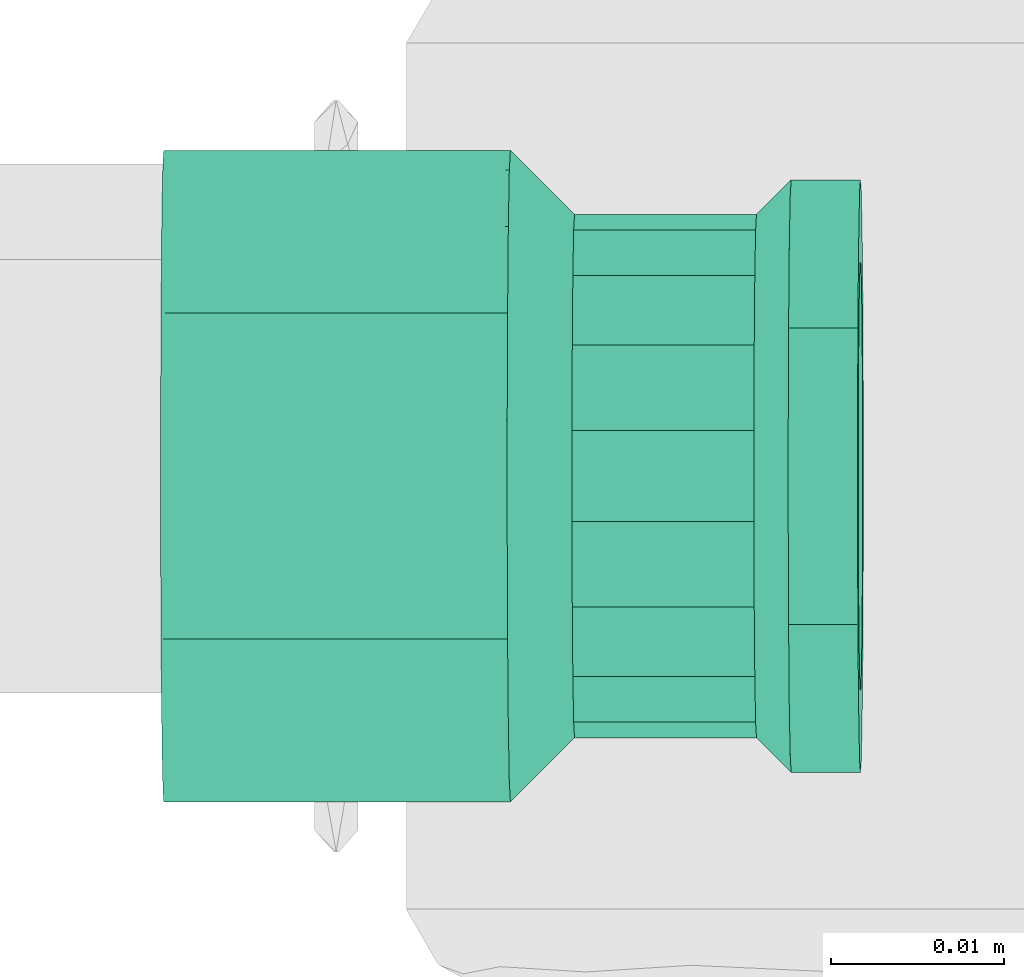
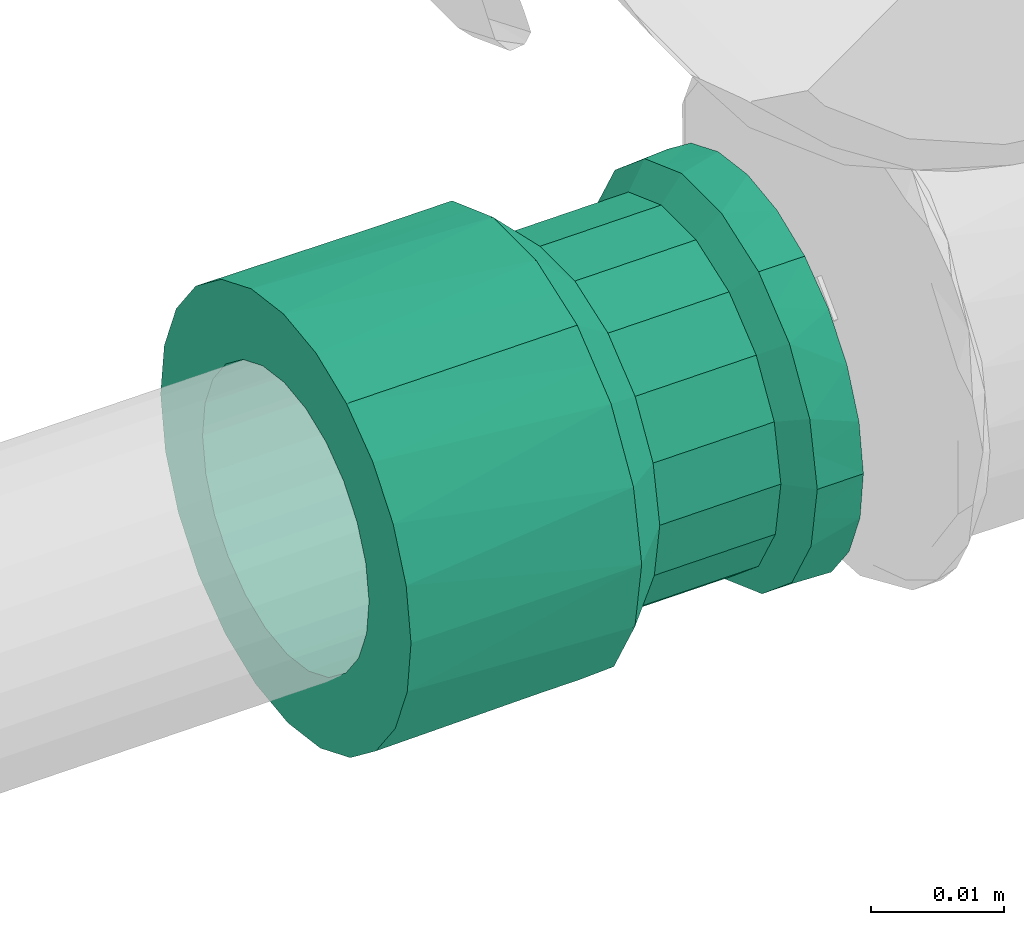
# One storey, part 351 of 589: 1 flow fitting.
"""IFC2X3 building model written with IfcOpenShell, lengths in millimetres."""

from ifc_helpers import new_model, entity, si_unit, converted_unit, derived_unit, direction, frame, origin, place, context, subcontext, project, spatial, faceted_brep, source, transform, mapped, material, type_object, type_shapes, element, save


model = new_model("IFC2X3")

# Units and contexts
model_context = context("Model", 3, precision=0.01, world=origin(), true_north=direction((6.123031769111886e-17, 1.0)))
body_context = subcontext(model_context, "Body", "Model", "MODEL_VIEW")
ifc_project = project(units=[si_unit("LENGTHUNIT", "METRE", prefix="MILLI"), si_unit("AREAUNIT", "SQUARE_METRE"), si_unit("VOLUMEUNIT", "CUBIC_METRE"), converted_unit("PLANEANGLEUNIT", "DEGREE", entity("IfcRatioMeasure", 0.017453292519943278), si_unit("PLANEANGLEUNIT", "RADIAN"), dimensions=[0, 0, 0, 0, 0, 0, 0]), si_unit("MASSUNIT", "GRAM", prefix="KILO"), derived_unit("MASSDENSITYUNIT", [(si_unit("MASSUNIT", "GRAM", prefix="KILO"), 1), (si_unit("LENGTHUNIT", "METRE"), -3)]), derived_unit("IONCONCENTRATIONUNIT", [(si_unit("MASSUNIT", "GRAM", prefix="KILO"), 1), (si_unit("LENGTHUNIT", "METRE"), -3)]), derived_unit("MOMENTOFINERTIAUNIT", [(si_unit("LENGTHUNIT", "METRE"), 4)]), si_unit("TIMEUNIT", "SECOND"), si_unit("FREQUENCYUNIT", "HERTZ"), si_unit("THERMODYNAMICTEMPERATUREUNIT", "DEGREE_CELSIUS"), derived_unit("THERMALTRANSMITTANCEUNIT", [(si_unit("MASSUNIT", "GRAM", prefix="KILO"), 1), (si_unit("THERMODYNAMICTEMPERATUREUNIT", "KELVIN"), -1), (si_unit("TIMEUNIT", "SECOND"), -3)]), derived_unit("THERMALCONDUCTANCEUNIT", [(si_unit("MASSUNIT", "GRAM", prefix="KILO"), 1), (si_unit("THERMODYNAMICTEMPERATUREUNIT", "KELVIN"), -1), (si_unit("TIMEUNIT", "SECOND"), -3), (si_unit("LENGTHUNIT", "METRE"), 1)]), derived_unit("VOLUMETRICFLOWRATEUNIT", [(si_unit("LENGTHUNIT", "METRE"), 3), (si_unit("TIMEUNIT", "SECOND"), -1)]), derived_unit("MASSFLOWRATEUNIT", [(si_unit("MASSUNIT", "GRAM", prefix="KILO"), 1), (si_unit("TIMEUNIT", "SECOND"), -1)]), derived_unit("ROTATIONALFREQUENCYUNIT", [(si_unit("TIMEUNIT", "SECOND"), -1)]), si_unit("ELECTRICCURRENTUNIT", "AMPERE"), si_unit("ELECTRICVOLTAGEUNIT", "VOLT"), si_unit("POWERUNIT", "WATT"), si_unit("FORCEUNIT", "NEWTON", prefix="KILO"), si_unit("ILLUMINANCEUNIT", "LUX"), si_unit("LUMINOUSFLUXUNIT", "LUMEN"), si_unit("LUMINOUSINTENSITYUNIT", "CANDELA"), derived_unit("USERDEFINED", [(si_unit("MASSUNIT", "GRAM", prefix="KILO"), -1), (si_unit("LENGTHUNIT", "METRE"), -2), (si_unit("TIMEUNIT", "SECOND"), 3), (si_unit("LUMINOUSFLUXUNIT", "LUMEN"), 1)]), derived_unit("USERDEFINED", [(si_unit("MASSUNIT", "GRAM", prefix="KILO"), 1), (si_unit("TIMEUNIT", "SECOND"), -3), (si_unit("LENGTHUNIT", "METRE"), 3), (si_unit("ELECTRICCURRENTUNIT", "AMPERE"), -2)]), derived_unit("SOUNDPOWERUNIT", [(si_unit("MASSUNIT", "GRAM", prefix="KILO"), 1), (si_unit("TIMEUNIT", "SECOND"), -3), (si_unit("LENGTHUNIT", "METRE"), 2)]), derived_unit("SOUNDPRESSUREUNIT", [(si_unit("MASSUNIT", "GRAM", prefix="KILO"), 1), (si_unit("LENGTHUNIT", "METRE"), -1), (si_unit("TIMEUNIT", "SECOND"), -2)]), derived_unit("LINEARVELOCITYUNIT", [(si_unit("LENGTHUNIT", "METRE"), 1), (si_unit("TIMEUNIT", "SECOND"), -1)]), si_unit("PRESSUREUNIT", "PASCAL"), derived_unit("USERDEFINED", [(si_unit("MASSUNIT", "GRAM", prefix="KILO"), 1), (si_unit("LENGTHUNIT", "METRE"), -2), (si_unit("TIMEUNIT", "SECOND"), -2)]), derived_unit("LINEARFORCEUNIT", [(si_unit("MASSUNIT", "GRAM", prefix="KILO"), 1), (si_unit("TIMEUNIT", "SECOND"), -2)]), derived_unit("PLANARFORCEUNIT", [(si_unit("MASSUNIT", "GRAM", prefix="KILO"), 1), (si_unit("LENGTHUNIT", "METRE"), -1), (si_unit("TIMEUNIT", "SECOND"), -2)]), derived_unit("SPECIFICHEATCAPACITYUNIT", [(si_unit("THERMODYNAMICTEMPERATUREUNIT", "KELVIN"), -1), (si_unit("LENGTHUNIT", "METRE"), 2), (si_unit("TIMEUNIT", "SECOND"), -2)]), derived_unit("HEATINGVALUEUNIT", [(si_unit("LENGTHUNIT", "METRE"), 2), (si_unit("TIMEUNIT", "SECOND"), -2)]), derived_unit("VAPORPERMEABILITYUNIT", [(si_unit("LENGTHUNIT", "METRE"), -1), (si_unit("TIMEUNIT", "SECOND"), 1)]), derived_unit("DYNAMICVISCOSITYUNIT", [(si_unit("MASSUNIT", "GRAM", prefix="KILO"), 1), (si_unit("TIMEUNIT", "SECOND"), -1), (si_unit("LENGTHUNIT", "METRE"), -1)]), derived_unit("THERMALEXPANSIONCOEFFICIENTUNIT", [(si_unit("THERMODYNAMICTEMPERATUREUNIT", "KELVIN"), -1)]), derived_unit("MODULUSOFELASTICITYUNIT", [(si_unit("MASSUNIT", "GRAM", prefix="KILO"), 1), (si_unit("LENGTHUNIT", "METRE"), -1), (si_unit("TIMEUNIT", "SECOND"), -2)]), derived_unit("ISOTHERMALMOISTURECAPACITYUNIT", [(si_unit("LENGTHUNIT", "METRE"), 3), (si_unit("MASSUNIT", "GRAM", prefix="KILO"), -1)]), derived_unit("MOISTUREDIFFUSIVITYUNIT", [(si_unit("TIMEUNIT", "SECOND"), -1), (si_unit("LENGTHUNIT", "METRE"), 2)])], contexts=[model_context])

# Site, building, storey
site_placement = place(None, origin())
site = spatial("IfcSite", under=ifc_project, at=site_placement, Name="Default", CompositionType="ELEMENT")
building_placement = place(site_placement, origin())
building = spatial("IfcBuilding", under=site, at=building_placement, CompositionType="ELEMENT")
storey_placement = place(building_placement, frame((0.0, 0.0, 100.0)))
storey = spatial("IfcBuildingStorey", under=building, at=storey_placement, Name="TÉRREO", CompositionType="ELEMENT", Elevation=100.0)

# Flow fitting
ifc_material = material(Name="PVC Azul")
pipe_fitting_type = type_object("IfcPipeFittingType", Name="Luva Soldavel com Bucha de Latao - Fortlev - AleBim:Standard", PredefinedType="NOTDEFINED", material=ifc_material)
shared_shape = source(origin(), body_context, "Body", "Brep", [
    faceted_brep([(0.0, -9.400000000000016, -16.28127759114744), (0.0, -13.2936074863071, -13.293607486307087), (0.0, -6.249999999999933, -10.825317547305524), (0.0, -3.235238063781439, -12.074072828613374), (0.0, -4.865798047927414, -18.15940553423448), (0.0, -8.838834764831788, -8.838834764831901), (0.0, -16.281277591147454, -9.399999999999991), (0.0, -10.82531754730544, -6.250000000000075), (0.0, -12.074072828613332, -3.2352380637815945), (0.0, -18.159405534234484, -4.865798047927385), (0.0, -12.5, 0.0), (0.0, -18.8, 0.0), (0.0, -12.074072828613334, 3.2352380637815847), (0.0, -18.159405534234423, 4.8657980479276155), (0.0, -10.825317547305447, 6.250000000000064), (0.0, -16.281277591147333, 9.400000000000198), (0.0, -8.838834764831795, 8.838834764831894), (0.0, -13.293607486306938, 13.29360748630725), (0.0, -6.249999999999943, 10.825317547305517), (0.0, -9.399999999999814, 16.281277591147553), (0.0, -3.23523806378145, 12.07407282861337), (0.0, -4.865798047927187, 18.159405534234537), (0.0, 0.0, 12.5), (0.0, 0.0, 18.8), (0.0, 3.2352380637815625, 12.074072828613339), (0.0, 4.865798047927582, 18.159405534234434), (0.0, 6.2500000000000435, 10.825317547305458), (0.0, 9.400000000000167, 16.28127759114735), (0.0, 8.838834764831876, 8.838834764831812), (0.0, 13.29360748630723, 13.293607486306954), (0.0, 10.825317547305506, 6.249999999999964), (0.0, 16.281277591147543, 9.399999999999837), (0.0, 18.159405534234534, 4.865798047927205), (0.0, 12.074072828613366, 3.2352380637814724), (0.0, 18.8, 0.0), (0.0, 12.5, 0.0), (0.0, 18.15940553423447, -4.865798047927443), (0.0, 12.074072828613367, -3.2352380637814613), (0.0, 16.281277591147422, -9.400000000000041), (0.0, 10.825317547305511, -6.249999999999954), (0.0, 13.293607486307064, -13.293607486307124), (0.0, 8.838834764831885, -8.838834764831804), (0.0, 9.399999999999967, -16.281277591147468), (0.0, 6.250000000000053, -10.825317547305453), (0.0, 4.86579804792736, -18.159405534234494), (0.0, 3.2352380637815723, -12.074072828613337), (0.0, 0.0, -18.8), (0.0, 0.0, -12.5), (20.0, 17.66604204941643, 6.4304710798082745), (20.0, 18.233021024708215, 3.2152355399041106), (20.0, 11.899800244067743, 14.183636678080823), (20.0, 14.400961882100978, 12.08520983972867), (20.0, 16.033501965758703, 9.257840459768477), (20.0, 6.330580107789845, 17.39840655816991), (20.0, 3.2625216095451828, 18.514749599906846), (20.0, 18.8, 0.0), (20.0, 9.398638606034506, 16.282063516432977), (20.0, -17.667654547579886, 6.4260394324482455), (20.0, -9.402722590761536, 16.279705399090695), (20.0, -6.334944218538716, 17.39681801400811), (20.0, -3.267165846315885, 18.513930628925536), (20.0, -14.403992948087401, 12.081597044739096), (20.0, -11.903357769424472, 14.180651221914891), (20.0, -18.8, 0.0), (20.0, -16.03582374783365, 9.253818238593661), (20.0, -0.0023221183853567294, 18.514340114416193), (20.0, -17.66765454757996, -6.426039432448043), (20.0, -11.903357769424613, -14.180651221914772), (20.0, -14.403992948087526, -12.081597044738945), (20.0, -16.035823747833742, -9.253818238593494), (20.0, -6.334944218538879, -17.39681801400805), (20.0, -3.2671658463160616, -18.513930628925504), (20.0, 18.233021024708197, -3.2152355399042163), (20.0, -9.402722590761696, -16.2797053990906), (20.0, 6.330580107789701, -17.398406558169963), (20.0, 3.2625216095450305, -18.514749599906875), (20.0, 9.398638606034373, -16.282063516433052), (20.0, 11.899800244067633, -14.183636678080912), (20.0, 17.66604204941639, -6.43047107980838), (20.0, 16.033501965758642, -9.257840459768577), (20.0, 14.400961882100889, -12.085209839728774), (20.0, -0.0023221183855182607, -18.51434011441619), (23.69999999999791, 14.19050976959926, 5.16134018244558), (23.699999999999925, 15.09999999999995, 0.0), (23.699999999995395, 5.088173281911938, 13.97297617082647), (23.699999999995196, 2.6241598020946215, 14.870231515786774), (23.699999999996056, 9.560675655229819, 11.38977837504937), (23.699999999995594, 7.552186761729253, 13.075720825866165), (23.699999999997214, 12.879837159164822, 7.432588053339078), (23.699999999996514, 11.569164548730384, 9.703835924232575), (23.699999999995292, 0.0018651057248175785, 14.870560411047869), (23.69999999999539, -2.620429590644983, 14.870889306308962), (23.699999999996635, -9.557818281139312, 11.392176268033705), (23.699999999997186, -11.566730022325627, 9.706737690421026), (23.699999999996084, -7.548906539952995, 13.077614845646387), (23.699999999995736, -5.084668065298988, 13.974252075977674), (23.699999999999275, -14.644607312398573, 2.582449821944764), (23.699999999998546, -14.189214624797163, 5.164899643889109), (23.700000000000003, -15.099999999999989, 0.0), (23.699999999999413, -14.732236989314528, 2.085517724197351), (23.699999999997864, -12.877972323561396, 7.4358186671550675), (23.699999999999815, -14.644607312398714, -2.582449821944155), (23.699999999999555, -14.18921462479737, -5.164899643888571), (23.699999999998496, -5.084668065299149, -13.97425207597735), (23.699999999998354, -2.620429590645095, -14.87088930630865), (23.69999999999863, -7.548906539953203, -13.077614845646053), (23.69999999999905, -11.566730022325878, -9.706737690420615), (23.69999999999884, -9.557818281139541, -11.392176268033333), (23.6999999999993, 14.190509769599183, -5.1613401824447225), (23.699999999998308, 0.0018651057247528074, -14.870560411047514), (23.699999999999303, -12.877972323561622, -7.435818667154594), (23.699999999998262, 2.6241598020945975, -14.870231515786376), (23.699999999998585, 9.56067565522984, -11.389778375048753), (23.699999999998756, 11.569164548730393, -9.703835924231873), (23.699999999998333, 5.088173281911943, -13.972976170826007), (23.69999999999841, 7.552186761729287, -13.075720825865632), (23.69999999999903, 12.879837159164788, -7.432588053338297), (34.20000000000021, -14.189214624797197, -5.164899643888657), (34.20000000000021, -14.73223698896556, -2.085517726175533), (34.20000000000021, -15.099999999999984, 0.0), (34.20000000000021, -9.55781828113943, -11.392176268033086), (34.20000000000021, -11.566730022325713, -9.706737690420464), (34.20000000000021, -7.548906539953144, -13.077614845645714), (34.20000000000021, -12.877972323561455, -7.43581866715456), (34.20000000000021, -2.620429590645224, -14.870889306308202), (34.20000000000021, -5.084668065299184, -13.974252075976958), (34.20000000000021, 2.6241598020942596, -14.870231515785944), (34.20000000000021, 0.0018651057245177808, -14.870560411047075), (34.20000000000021, 5.0881732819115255, -13.97297617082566), (34.20000000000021, 7.552186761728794, -13.075720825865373), (34.20000000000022, 11.56916454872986, -9.70383592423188), (34.200000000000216, 9.560675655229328, -11.389778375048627), (34.20000000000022, 12.879837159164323, -7.432588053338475), (34.20000000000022, 14.19050976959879, -5.161340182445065), (34.20000000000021, 15.100000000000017, 0.0), (34.199999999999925, 14.190509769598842, 5.161340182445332), (34.19999999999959, 7.552186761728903, 13.0757208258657), (34.199999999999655, 9.56067565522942, 11.389778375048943), (34.19999999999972, 11.569164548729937, 9.703835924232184), (34.199999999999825, 12.879837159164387, 7.432588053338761), (34.19999999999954, 2.624159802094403, 14.87023151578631), (34.19999999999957, 5.08817328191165, 13.972976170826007), (34.19999999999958, -2.6204295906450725, 14.870889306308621), (34.19999999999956, 0.0018651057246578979, 14.870560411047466), (34.199999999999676, -7.548906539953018, 13.077614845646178), (34.199999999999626, -5.084668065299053, 13.974252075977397), (34.20000000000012, -14.644607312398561, 2.582449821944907), (34.20000000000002, -14.18921462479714, 5.164899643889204), (34.199999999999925, -12.877972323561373, 7.435818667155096), (34.19999999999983, -11.566730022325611, 9.706737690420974), (34.199999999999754, -9.557818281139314, 11.392176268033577), (36.20000000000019, -17.099999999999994, 0.0), (36.20000000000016, -16.698266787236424, 2.2781566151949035), (36.199999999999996, -16.584290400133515, 2.9244961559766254), (36.200000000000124, -16.068580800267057, 5.848992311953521), (36.20000000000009, -14.583664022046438, 8.420695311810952), (36.20000000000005, -13.098747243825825, 10.992398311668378), (36.200000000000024, -10.823754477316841, 12.90107378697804), (36.2, -8.548761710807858, 14.809749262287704), (36.19999999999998, -5.758134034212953, 15.825146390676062), (36.19999999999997, -2.9675063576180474, 16.840543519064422), (36.19999999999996, 0.0021121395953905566, 16.84017106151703), (36.19999999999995, 2.9717306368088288, 16.839798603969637), (36.199999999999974, 8.55247639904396, 14.807604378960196), (36.19999999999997, 5.762103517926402, 15.823701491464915), (36.20000000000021, 17.100000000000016, 0.0), (36.2000000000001, 16.070047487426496, 5.844961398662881), (36.200000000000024, 13.101504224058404, 10.989112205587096), (36.20000000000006, 14.585775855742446, 8.417036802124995), (36.2, 10.826990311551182, 12.898358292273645), (36.20000000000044, 16.07004748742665, -5.844961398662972), (36.200000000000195, 0.0021121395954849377, -16.84017106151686), (36.20000000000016, -2.9675063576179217, -16.84054351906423), (36.20000000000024, 2.9717306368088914, -16.839798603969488), (36.200000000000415, 14.58577585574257, -8.417036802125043), (36.20000000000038, 13.10150422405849, -10.989112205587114), (36.20000000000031, 8.552476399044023, -14.807604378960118), (36.20000000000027, 5.7621035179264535, -15.823701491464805), (36.20000000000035, 10.826990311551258, -12.898358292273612), (36.20000000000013, -5.758134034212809, -15.825146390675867), (36.2000000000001, -8.548761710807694, -14.809749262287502), (36.200000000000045, -16.068580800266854, -5.848992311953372), (36.200000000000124, -16.58429040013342, -2.924496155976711), (36.20000000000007, -13.098747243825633, -10.992398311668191), (36.20000000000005, -14.583664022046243, -8.420695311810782), (36.20000000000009, -10.823754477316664, -12.901073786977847), (40.200000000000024, 8.550000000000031, -14.809034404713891), (40.200000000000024, 12.091525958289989, -12.091525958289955), (40.200000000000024, 6.2500000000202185, -10.825317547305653), (40.200000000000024, 3.2352380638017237, -12.074072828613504), (40.200000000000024, 4.425805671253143, -16.51733162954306), (40.200000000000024, 8.838834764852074, -8.838834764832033), (40.200000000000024, 14.809034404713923, -8.549999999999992), (40.200000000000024, 10.825317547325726, -6.250000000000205), (40.200000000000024, 12.074072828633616, -3.235238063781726), (40.200000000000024, 16.517331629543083, -4.4258056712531), (40.200000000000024, 12.500000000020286, 0.0), (40.200000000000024, 17.100000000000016, 0.0), (40.200000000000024, 12.074072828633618, 3.2352380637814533), (40.200000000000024, 16.51733162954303, 4.42580567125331), (40.200000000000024, 10.825317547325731, 6.2499999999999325), (40.200000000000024, 14.809034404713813, 8.550000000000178), (40.200000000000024, 8.83883476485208, 8.838834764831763), (40.200000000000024, 12.091525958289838, 12.091525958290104), (40.200000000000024, 6.250000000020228, 10.825317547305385), (40.200000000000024, 8.549999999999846, 14.809034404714), (40.200000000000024, 3.235238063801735, 12.074072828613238), (40.200000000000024, 4.425805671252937, 16.51733162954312), (40.200000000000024, 0.0, 12.49999999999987), (40.200000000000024, 0.0, 17.1), (40.200000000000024, -3.235238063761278, 12.07407282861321), (40.200000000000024, -4.425805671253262, 16.51733162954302), (40.200000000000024, -6.249999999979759, 10.825317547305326), (40.200000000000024, -8.550000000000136, 14.809034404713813), (40.200000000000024, -8.838834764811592, 8.838834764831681), (40.200000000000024, -12.091525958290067, 12.091525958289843), (40.200000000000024, -10.825317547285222, 6.249999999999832), (40.200000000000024, -14.809034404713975, 8.549999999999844), (40.200000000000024, -16.517331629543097, 4.425805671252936), (40.200000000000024, -12.07407282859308, 3.2352380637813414), (40.200000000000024, -17.099999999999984, 0.0), (40.200000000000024, -12.499999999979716, 0.0), (40.200000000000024, -16.517331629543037, -4.425805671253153), (40.200000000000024, -12.074072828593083, -3.2352380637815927), (40.200000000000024, -14.809034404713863, -8.550000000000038), (40.200000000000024, -10.825317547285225, -6.250000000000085), (40.200000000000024, -12.09152595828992, -12.09152595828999), (40.200000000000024, -8.838834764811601, -8.838834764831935), (40.200000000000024, -8.549999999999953, -14.80903440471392), (40.200000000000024, -6.249999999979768, -10.825317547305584), (40.200000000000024, -4.425805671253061, -16.517331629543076), (40.200000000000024, -3.2352380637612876, -12.074072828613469), (40.200000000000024, 0.0, -17.1), (40.200000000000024, 0.0, -12.500000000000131), (24.0, 3.23523806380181, -12.074072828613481), (24.0, 6.250000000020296, -10.825317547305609), (24.0, 8.838834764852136, -8.83883476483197), (24.0, 10.825317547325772, -6.250000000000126), (24.0, 12.07407282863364, -3.2352380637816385), (24.0, 12.500000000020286, 0.0), (24.0, 12.074072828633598, 3.235238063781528), (24.0, 10.825317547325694, 6.249999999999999), (24.0, 8.838834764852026, 8.838834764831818), (24.0, 6.250000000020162, 10.825317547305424), (24.0, 3.2352380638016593, 12.074072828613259), (24.0, 0.0, 12.49999999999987), (24.0, -3.235238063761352, 12.07407282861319), (24.0, -6.249999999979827, 10.82531754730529), (24.0, -8.83883476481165, 8.83883476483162), (24.0, -10.82531754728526, 6.24999999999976), (24.0, -12.074072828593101, 3.235238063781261), (24.0, -12.499999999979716, 0.0), (24.0, -12.07407282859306, -3.235238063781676), (24.0, -10.825317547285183, -6.250000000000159), (24.0, -8.838834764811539, -8.838834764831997), (24.0, -6.2499999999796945, -10.825317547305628), (24.0, -3.2352380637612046, -12.074072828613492), (24.0, 0.0, -12.500000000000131), (16.200000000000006, -12.074072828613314, 3.2352380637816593), (16.200000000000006, -12.5, 0.0), (16.200000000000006, -10.825317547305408, 6.250000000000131), (16.200000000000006, -8.838834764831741, 8.83883476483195), (16.200000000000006, -6.2499999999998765, 10.825317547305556), (16.200000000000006, -3.2352380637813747, 12.07407282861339), (16.200000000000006, 0.0, 12.5), (16.200000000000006, 6.250000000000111, 10.825317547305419), (16.200000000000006, 3.235238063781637, 12.074072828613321), (16.200000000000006, 8.838834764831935, 8.838834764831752), (16.200000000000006, 10.825317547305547, 6.249999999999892), (16.200000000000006, 12.074072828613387, 3.235238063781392), (16.200000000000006, 12.5, 0.0), (16.200000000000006, 12.074072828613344, -3.2352380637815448), (16.200000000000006, 10.825317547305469, -6.2500000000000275), (16.200000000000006, 8.838834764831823, -8.838834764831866), (16.200000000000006, 6.24999999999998, -10.825317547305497), (16.200000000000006, 3.2352380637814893, -12.07407282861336), (16.200000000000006, 0.0, -12.5), (16.200000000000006, -6.250000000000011, -10.82531754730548), (16.200000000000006, -3.2352380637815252, -12.07407282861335), (16.200000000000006, -8.83883476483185, -8.838834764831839), (16.200000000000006, -10.825317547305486, -6.249999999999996), (16.200000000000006, -12.074072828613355, -3.2352380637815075)], [[[0, 1, 2]], [[0, 2, 3]], [[3, 4, 0]], [[2, 1, 5]], [[6, 5, 1]], [[7, 5, 6]], [[8, 7, 6]], [[8, 6, 9]], [[8, 9, 10]], [[10, 9, 11]], [[12, 10, 11]], [[12, 11, 13]], [[14, 12, 13]], [[14, 13, 15]], [[16, 14, 15]], [[15, 17, 16]], [[17, 18, 16]], [[18, 17, 19]], [[18, 19, 20]], [[21, 20, 19]], [[20, 21, 22]], [[22, 21, 23]], [[23, 24, 22]], [[24, 23, 25]], [[24, 25, 26]], [[27, 26, 25]], [[27, 28, 26]], [[27, 29, 28]], [[30, 28, 29]], [[31, 30, 29]], [[32, 30, 31]], [[33, 30, 32]], [[33, 32, 34]], [[34, 35, 33]], [[36, 35, 34]], [[36, 37, 35]], [[37, 36, 38]], [[39, 37, 38]], [[39, 38, 40]], [[39, 40, 41]], [[40, 42, 41]], [[41, 42, 43]], [[43, 42, 44]], [[44, 45, 43]], [[46, 45, 44]], [[4, 47, 46]], [[45, 46, 47]], [[4, 3, 47]], [[32, 48, 49]], [[50, 51, 29]], [[52, 48, 31, 51]], [[53, 25, 54]], [[48, 32, 31]], [[34, 49, 55]], [[25, 53, 27]], [[27, 56, 50]], [[29, 51, 31]], [[13, 57, 15]], [[19, 58, 59]], [[53, 56, 27]], [[21, 19, 59]], [[54, 25, 23]], [[29, 27, 50]], [[59, 60, 21]], [[61, 62, 17]], [[63, 57, 13]], [[32, 49, 34]], [[64, 61, 15, 57]], [[11, 63, 13]], [[17, 62, 19]], [[65, 54, 23, 60]], [[61, 17, 15]], [[19, 62, 58]], [[21, 60, 23]], [[66, 63, 9]], [[67, 68, 1]], [[69, 66, 6, 68]], [[70, 4, 71]], [[66, 9, 6]], [[63, 11, 9]], [[1, 68, 6]], [[34, 55, 72]], [[70, 73, 0]], [[71, 4, 46]], [[74, 75, 44]], [[42, 76, 74]], [[42, 77, 76]], [[36, 78, 38]], [[38, 78, 79, 80]], [[36, 34, 72]], [[77, 40, 80]], [[72, 78, 36]], [[0, 73, 67]], [[81, 71, 46, 75]], [[1, 0, 67]], [[4, 70, 0]], [[80, 40, 38]], [[40, 77, 42]], [[44, 75, 46]], [[44, 42, 74]], [[82, 83, 49]], [[84, 53, 85]], [[86, 50, 87]], [[88, 52, 89]], [[53, 54, 85]], [[50, 56, 87]], [[49, 48, 82]], [[52, 51, 89]], [[87, 56, 84]], [[83, 55, 49]], [[88, 48, 52]], [[51, 50, 86]], [[85, 54, 90]], [[82, 48, 88]], [[56, 53, 84]], [[89, 51, 86]], [[65, 60, 91]], [[92, 62, 93]], [[59, 58, 94]], [[90, 65, 91]], [[95, 59, 94]], [[96, 97, 57]], [[63, 98, 99, 96]], [[64, 57, 97]], [[100, 64, 97]], [[62, 61, 93]], [[93, 61, 100]], [[59, 95, 60]], [[92, 58, 62]], [[61, 64, 100]], [[63, 96, 57]], [[94, 58, 92]], [[54, 65, 90]], [[91, 60, 95]], [[66, 101, 63]], [[98, 63, 101]], [[66, 102, 101]], [[103, 71, 104]], [[105, 73, 70]], [[106, 68, 67]], [[107, 73, 105]], [[102, 66, 69]], [[108, 78, 72]], [[70, 71, 103]], [[109, 104, 81]], [[69, 68, 110]], [[81, 75, 109]], [[110, 102, 69]], [[67, 73, 107]], [[107, 106, 67]], [[75, 111, 109]], [[112, 80, 113]], [[111, 75, 74]], [[110, 68, 106]], [[81, 104, 71]], [[114, 76, 115]], [[103, 105, 70]], [[113, 80, 79]], [[116, 78, 108]], [[115, 76, 77]], [[116, 113, 79]], [[79, 78, 116]], [[55, 83, 72]], [[77, 80, 112]], [[108, 72, 83]], [[112, 115, 77]], [[74, 76, 114]], [[114, 111, 74]], [[117, 118, 119, 98, 101, 102]], [[120, 121, 106, 107, 105, 122]], [[121, 123, 117, 102, 110, 106]], [[124, 125, 122, 105, 103, 104]], [[126, 127, 124, 104, 109, 111]], [[128, 126, 111, 114, 115, 129]], [[112, 113, 130, 131, 129, 115]], [[132, 130, 113, 116, 108, 133]], [[108, 83, 134, 133]], [[135, 134, 83, 82]], [[136, 137, 138, 89, 86, 87]], [[138, 139, 135, 82, 88, 89]], [[140, 141, 136, 87, 84, 85]], [[90, 91, 142, 143, 140, 85]], [[95, 94, 144, 145, 142, 91]], [[99, 98, 119, 146, 147, 97, 96]], [[148, 149, 93, 100, 97, 147]], [[92, 93, 149, 150, 144, 94]], [[147, 146, 119, 151, 152, 153, 154]], [[148, 147, 154, 155, 156, 149]], [[150, 149, 156, 157, 158, 144]], [[158, 159, 160, 142, 145, 144]], [[161, 162, 140, 143, 142, 160]], [[163, 136, 141, 140, 162, 164]], [[165, 134, 135, 166]], [[167, 168, 166, 135, 139, 138]], [[163, 169, 167, 138, 137, 136]], [[170, 133, 134, 165]], [[171, 172, 124, 127, 126, 173]], [[132, 133, 170, 174, 175, 130]], [[126, 128, 129, 176, 177, 173]], [[175, 178, 176, 129, 131, 130]], [[125, 124, 172, 179, 180, 122]], [[151, 119, 118, 117, 181, 182]], [[183, 184, 181, 117, 123, 121]], [[180, 185, 183, 121, 120, 122]], [[186, 187, 188]], [[186, 188, 189]], [[189, 190, 186]], [[188, 187, 191]], [[192, 191, 187]], [[193, 191, 192]], [[194, 193, 192]], [[194, 192, 195]], [[194, 195, 196]], [[196, 195, 197]], [[198, 196, 197]], [[198, 197, 199]], [[200, 198, 199]], [[200, 199, 201]], [[202, 200, 201]], [[201, 203, 202]], [[203, 204, 202]], [[204, 203, 205]], [[204, 205, 206]], [[207, 206, 205]], [[206, 207, 208]], [[208, 207, 209]], [[209, 210, 208]], [[210, 209, 211]], [[210, 211, 212]], [[213, 212, 211]], [[213, 214, 212]], [[213, 215, 214]], [[216, 214, 215]], [[217, 216, 215]], [[218, 216, 217]], [[219, 216, 218]], [[219, 218, 220]], [[220, 221, 219]], [[222, 221, 220]], [[222, 223, 221]], [[223, 222, 224]], [[225, 223, 224]], [[225, 224, 226]], [[225, 226, 227]], [[226, 228, 227]], [[227, 228, 229]], [[229, 228, 230]], [[230, 231, 229]], [[232, 231, 230]], [[190, 233, 232]], [[231, 232, 233]], [[190, 189, 233]], [[218, 154, 153]], [[157, 156, 215]], [[155, 154, 217, 156]], [[159, 211, 160]], [[154, 218, 217]], [[220, 153, 152, 151]], [[213, 158, 157]], [[215, 213, 157]], [[215, 156, 217]], [[205, 163, 164]], [[207, 205, 164]], [[159, 158, 213]], [[211, 159, 213]], [[160, 211, 209]], [[218, 153, 220]], [[164, 162, 207]], [[167, 169, 203]], [[165, 166, 199]], [[168, 167, 201, 166]], [[197, 165, 199]], [[203, 169, 205]], [[161, 160, 209, 162]], [[207, 162, 209]], [[167, 203, 201]], [[205, 169, 163]], [[199, 166, 201]], [[170, 165, 195]], [[178, 175, 187]], [[174, 170, 192, 175]], [[177, 190, 173]], [[170, 195, 192]], [[165, 197, 195]], [[190, 177, 186]], [[186, 176, 178]], [[187, 175, 192]], [[222, 220, 182]], [[228, 180, 179]], [[177, 176, 186]], [[230, 228, 179]], [[173, 190, 232]], [[187, 186, 178]], [[179, 172, 230]], [[183, 185, 226]], [[182, 181, 222]], [[184, 183, 224, 181]], [[222, 181, 224]], [[226, 185, 228]], [[171, 173, 232, 172]], [[230, 172, 232]], [[183, 226, 224]], [[228, 185, 180]], [[220, 151, 182]], [[234, 235, 236, 237, 238, 239, 240, 241, 242, 243, 244, 245, 246, 247, 248, 249, 250, 251, 252, 253, 254, 255, 256, 257]], [[250, 219, 221, 251]], [[12, 258, 259, 10]], [[249, 216, 219, 250]], [[14, 260, 258, 12]], [[214, 248, 247, 212]], [[261, 16, 18, 262]], [[249, 248, 214, 216]], [[261, 260, 14, 16]], [[212, 247, 246, 210]], [[262, 18, 20, 263]], [[210, 246, 245, 208]], [[20, 22, 264, 263]], [[243, 204, 206, 244]], [[26, 265, 266, 24]], [[242, 202, 204, 243]], [[28, 267, 265, 26]], [[200, 241, 240, 198]], [[268, 30, 33, 269]], [[242, 241, 200, 202]], [[268, 267, 28, 30]], [[198, 240, 239, 196]], [[269, 33, 35, 270]], [[206, 208, 245, 244]], [[24, 266, 264, 22]], [[238, 194, 196, 239]], [[37, 271, 270, 35]], [[237, 193, 194, 238]], [[39, 272, 271, 37]], [[191, 236, 235, 188]], [[273, 41, 43, 274]], [[237, 236, 191, 193]], [[273, 272, 39, 41]], [[188, 235, 234, 189]], [[274, 43, 45, 275]], [[189, 234, 257, 233]], [[45, 47, 276, 275]], [[255, 229, 231, 256]], [[2, 277, 278, 3]], [[254, 227, 229, 255]], [[5, 279, 277, 2]], [[225, 253, 252, 223]], [[280, 7, 8, 281]], [[254, 253, 225, 227]], [[280, 279, 5, 7]], [[223, 252, 251, 221]], [[281, 8, 10, 259]], [[231, 233, 257, 256]], [[3, 278, 276, 47]], [[278, 277, 279, 280, 281, 259, 258, 260, 261, 262, 263, 264, 266, 265, 267, 268, 269, 270, 271, 272, 273, 274, 275, 276]]]),
])
type_shapes(pipe_fitting_type, [shared_shape])
flow_fitting_placement = place(storey_placement, frame((-5246.224913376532, -4327.6257789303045, 2506.55470816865), z_axis=(-0.009999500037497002, 0.0, 0.9999500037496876), x_axis=(0.9999500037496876, 0.0, 0.009999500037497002)))
element("IfcFlowFitting", 1, at=flow_fitting_placement, inside=storey, type_object=pipe_fitting_type, material=ifc_material, Name="Luva Soldavel com Bucha de Latao - Fortlev - AleBim:Standard", ObjectType="Luva Soldavel com Bucha de Latao - Fortlev - AleBim:Standard", context=body_context, shape_type="MappedRepresentation", body=[
    mapped(shared_shape, transform((0.0, 0.0, 0.0), scale=1.0)),
])

save(model, "model.ifc")
